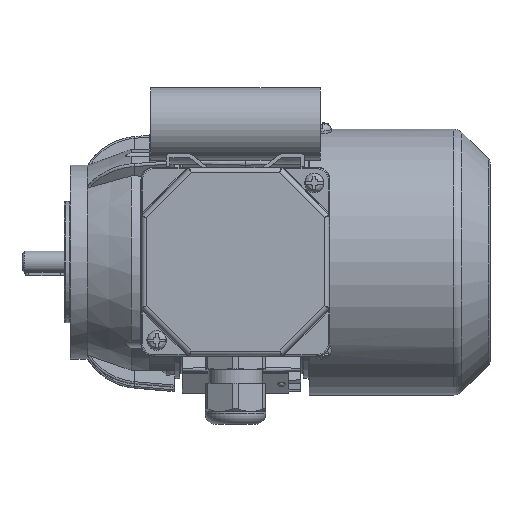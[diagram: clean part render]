
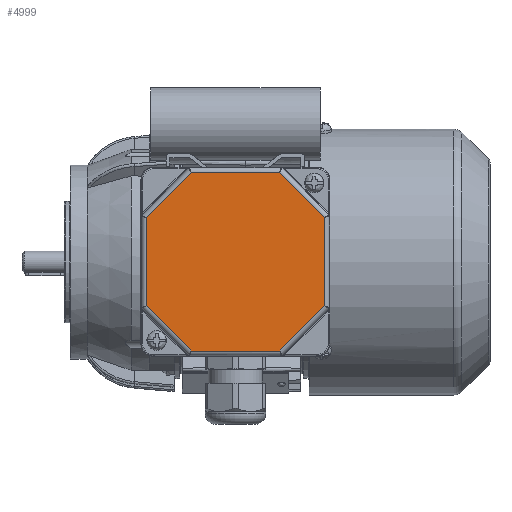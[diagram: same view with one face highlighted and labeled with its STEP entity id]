
A CAD part, top view. The second image highlights one B-rep face of the part: STEP entity #4999.
In plain terms, the highlighted planar face has unit normal (0, 0, 1).
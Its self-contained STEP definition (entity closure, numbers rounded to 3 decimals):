
#4999 = ADVANCED_FACE( '', ( #10034 ), #10035, .T. );
#10034 = FACE_OUTER_BOUND( '', #20282, .T. );
#10035 = PLANE( '', #20283 );
#20282 = EDGE_LOOP( '', ( #34493, #34494, #34495, #34496, #34497, #34498, #34499, #34500 ) );
#20283 = AXIS2_PLACEMENT_3D( '', #34501, #34502, #34503 );
#34493 = ORIENTED_EDGE( '', *, *, #38338, .T. );
#34494 = ORIENTED_EDGE( '', *, *, #40306, .T. );
#34495 = ORIENTED_EDGE( '', *, *, #41216, .T. );
#34496 = ORIENTED_EDGE( '', *, *, #41709, .T. );
#34497 = ORIENTED_EDGE( '', *, *, #41826, .T. );
#34498 = ORIENTED_EDGE( '', *, *, #39455, .T. );
#34499 = ORIENTED_EDGE( '', *, *, #40183, .T. );
#34500 = ORIENTED_EDGE( '', *, *, #41688, .T. );
#34501 = CARTESIAN_POINT( '', ( -39., 39., 12. ) );
#34502 = DIRECTION( '', ( 0., 0., 1. ) );
#34503 = DIRECTION( '', ( 1., 0., 0. ) );
#38338 = EDGE_CURVE( '', #46134, #46111, #46135, .F. );
#39455 = EDGE_CURVE( '', #47893, #47894, #47895, .T. );
#40183 = EDGE_CURVE( '', #47894, #48968, #48969, .F. );
#40306 = EDGE_CURVE( '', #46111, #49098, #49126, .T. );
#41216 = EDGE_CURVE( '', #49098, #49222, #50258, .F. );
#41688 = EDGE_CURVE( '', #48968, #46134, #50774, .T. );
#41709 = EDGE_CURVE( '', #49222, #50798, #50799, .T. );
#41826 = EDGE_CURVE( '', #50798, #47893, #50920, .F. );
#46111 = VERTEX_POINT( '', #58003 );
#46134 = VERTEX_POINT( '', #58058 );
#46135 = LINE( '', #58059, #58060 );
#47893 = VERTEX_POINT( '', #61068 );
#47894 = VERTEX_POINT( '', #61069 );
#47895 = LINE( '', #61070, #61071 );
#48968 = VERTEX_POINT( '', #62919 );
#48969 = LINE( '', #62920, #62921 );
#49098 = VERTEX_POINT( '', #63139 );
#49126 = LINE( '', #63176, #63177 );
#49222 = VERTEX_POINT( '', #63355 );
#50258 = LINE( '', #65878, #65879 );
#50774 = LINE( '', #67002, #67003 );
#50798 = VERTEX_POINT( '', #67079 );
#50799 = LINE( '', #67080, #67081 );
#50920 = LINE( '', #67313, #67314 );
#58003 = CARTESIAN_POINT( '', ( 36.825, 18.255, 12. ) );
#58058 = CARTESIAN_POINT( '', ( 36.825, -18.255, 12. ) );
#58059 = CARTESIAN_POINT( '', ( 36.825, 19.069, 12. ) );
#58060 = VECTOR( '', #70407, 1000. );
#61068 = CARTESIAN_POINT( '', ( -36.825, -18.255, 12. ) );
#61069 = CARTESIAN_POINT( '', ( -18.255, -36.825, 12. ) );
#61070 = CARTESIAN_POINT( '', ( -17.679, -37.401, 12. ) );
#61071 = VECTOR( '', #71976, 1000. );
#62919 = CARTESIAN_POINT( '', ( 18.255, -36.825, 12. ) );
#62920 = CARTESIAN_POINT( '', ( 19.069, -36.825, 12. ) );
#62921 = VECTOR( '', #72972, 1000. );
#63139 = CARTESIAN_POINT( '', ( 18.255, 36.825, 12. ) );
#63176 = CARTESIAN_POINT( '', ( 17.679, 37.401, 12. ) );
#63177 = VECTOR( '', #73100, 1000. );
#63355 = CARTESIAN_POINT( '', ( -18.255, 36.825, 12. ) );
#65878 = CARTESIAN_POINT( '', ( -19.069, 36.825, 12. ) );
#65879 = VECTOR( '', #73937, 1000. );
#67002 = CARTESIAN_POINT( '', ( 37.401, -17.679, 12. ) );
#67003 = VECTOR( '', #74294, 1000. );
#67079 = CARTESIAN_POINT( '', ( -36.825, 18.255, 12. ) );
#67080 = CARTESIAN_POINT( '', ( -37.401, 17.679, 12. ) );
#67081 = VECTOR( '', #74305, 1000. );
#67313 = CARTESIAN_POINT( '', ( -36.825, -19.069, 12. ) );
#67314 = VECTOR( '', #74367, 1000. );
#70407 = DIRECTION( '', ( 0., -1., 0. ) );
#71976 = DIRECTION( '', ( 0.707, -0.707, 0. ) );
#72972 = DIRECTION( '', ( -1., 0., 0. ) );
#73100 = DIRECTION( '', ( -0.707, 0.707, 0. ) );
#73937 = DIRECTION( '', ( 1., 0., 0. ) );
#74294 = DIRECTION( '', ( 0.707, 0.707, 0. ) );
#74305 = DIRECTION( '', ( -0.707, -0.707, 0. ) );
#74367 = DIRECTION( '', ( 0., 1., 0. ) );
